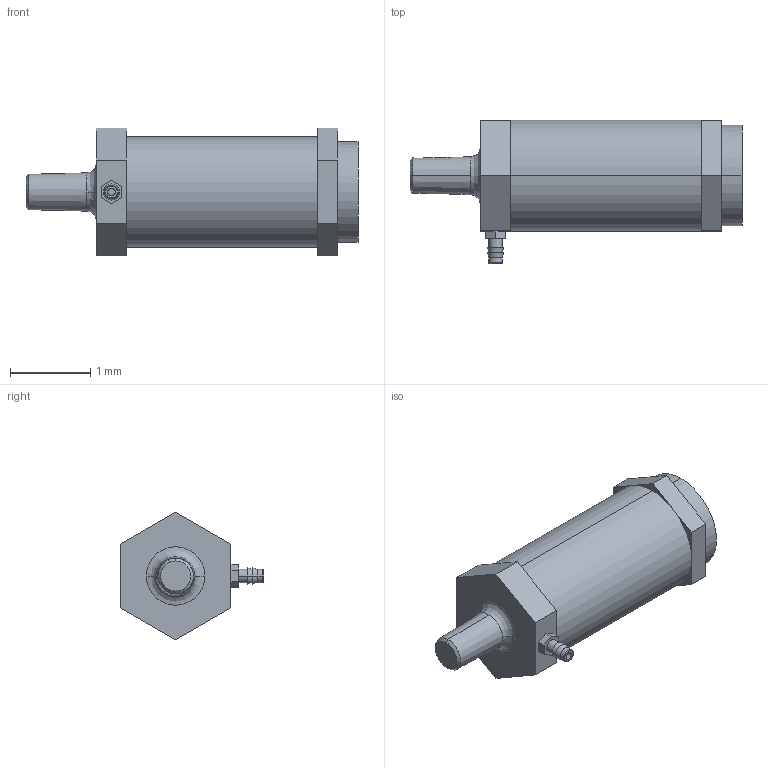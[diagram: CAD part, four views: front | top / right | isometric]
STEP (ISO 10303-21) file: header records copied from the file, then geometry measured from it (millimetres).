
FILE_DESCRIPTION((''),'2;1');
FILE_NAME('XB3.stp','2017-11-07T11:37:51',(''),(''),'Mechanical Desktop 2011','Mechanical Desktop 2011',', , ');
FILE_SCHEMA(('CONFIG_CONTROL_DESIGN'));
Length unit declared in the file: millimetre
Products named in the file (1): Product
Bounding box: 4.12 x 1.78 x 1.59 mm (x, y, z)
Volume: 5 mm3; surface area: 27.8 mm2
Topology: 5 solids, 5 shells, 54 faces, 115 edges, 75 vertices
Faces by surface type: plane 32, cylinder 10, cone 8, torus 2, bspline 2
Entity records: 1633 total; most frequent: CARTESIAN_POINT 333, DIRECTION 264, ORIENTED_EDGE 230, EDGE_CURVE 115, AXIS2_PLACEMENT_3D 96, VERTEX_POINT 75, VECTOR 72, LINE 72
